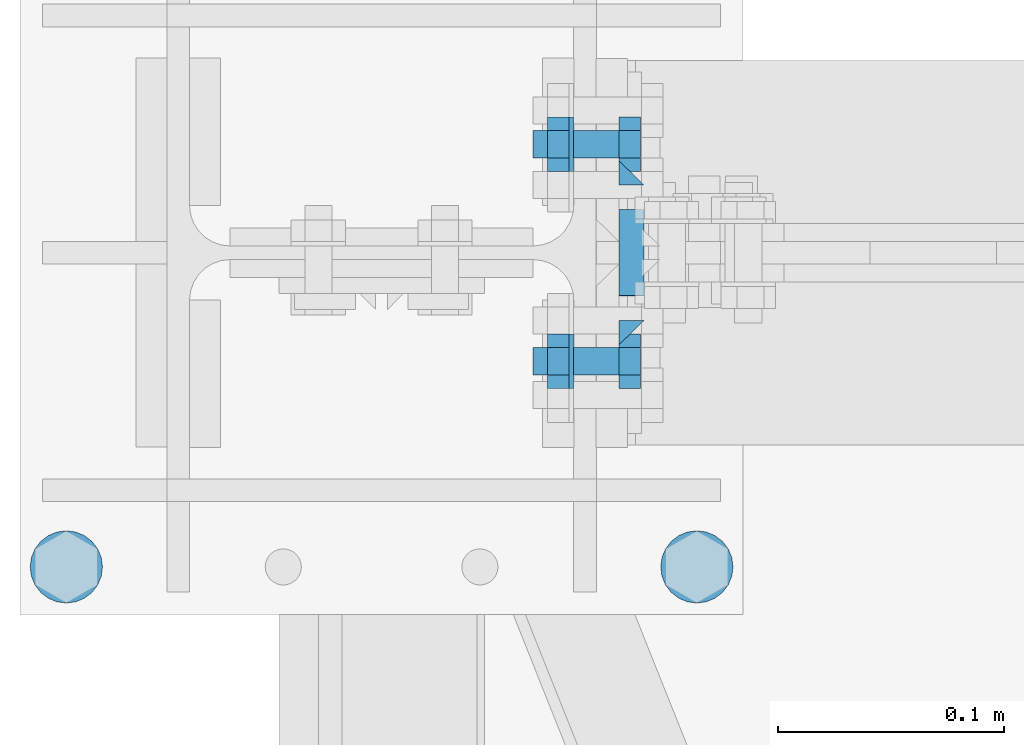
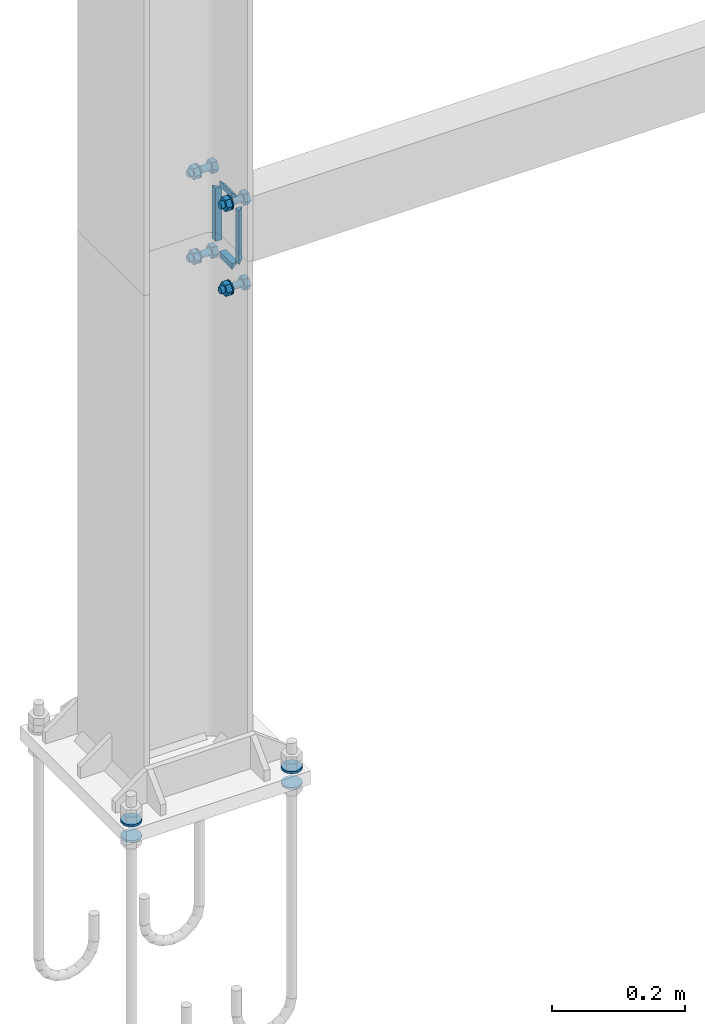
# One storey, part 187 of 251: 20 mechanical fasteners, 8 fasteners.
"""IFC4 building model written with IfcOpenShell, lengths in metres."""

from ifc_helpers import new_model, si_unit, frame, origin_with_axes, place, context, project, spatial, polyline, outline, extrude, type_object, element, save


model = new_model("IFC4")

# Units and contexts
model_context = context("Model", 3, precision=1e-05, world=origin_with_axes())
ifc_project = project(units=[si_unit("LENGTHUNIT", "METRE"), si_unit("AREAUNIT", "SQUARE_METRE"), si_unit("VOLUMEUNIT", "CUBIC_METRE"), si_unit("MASSUNIT", "GRAM", prefix="KILO"), si_unit("TIMEUNIT", "SECOND"), si_unit("PLANEANGLEUNIT", "RADIAN"), si_unit("SOLIDANGLEUNIT", "STERADIAN"), si_unit("THERMODYNAMICTEMPERATUREUNIT", "DEGREE_CELSIUS")], contexts=[model_context])

# Site, building, storey
placement_1 = place(None, origin_with_axes())
site = spatial("IfcSite", under=ifc_project, at=placement_1, Name="Italia", CompositionType="ELEMENT")
building = spatial("IfcBuilding", under=site, at=placement_1, Name="Deposito", CompositionType="ELEMENT")
storey = spatial("IfcBuildingStorey", under=building, at=placement_1, Name="Storey 0", CompositionType="ELEMENT", Elevation=0.0)

# Fasteners
fastener_type_1 = type_object("IfcFastenerType", Name="Collegamenti -005_-006 -008_-007 -013_-014 -016_-015", PredefinedType="WELD")
placement_2 = place(placement_1, origin_with_axes())
fastener_1_placement = place(placement_2, origin_with_axes())
element("IfcFastener", 1, at=fastener_1_placement, inside=storey, type_object=fastener_type_1, Name="Collegamenti -005_-006 -008_-007 -013_-014 -016_-015", context=model_context, shape_type="SweptSolid", body=[
    extrude(outline(polyline([(0.0, 0.0), (0.0111732, -0.0108382), (0.0, -0.0108382), (0.0, 0.0)])), frame((6.15495, 20.0191, 1.07079), z_axis=(0.0, -1.0, 0.0), x_axis=(1.0, 0.0, 0.0)), (0.0, 0.0, 1.0), 0.0381012),
])
fastener_type_2 = type_object("IfcFastenerType", Name="Collegamenti -005_-006 -008_-007 -013_-014 -016_-015", PredefinedType="WELD")
fastener_2_placement = place(placement_2, origin_with_axes())
element("IfcFastener", 2, at=fastener_2_placement, inside=storey, type_object=fastener_type_2, Name="Collegamenti -005_-006 -008_-007 -013_-014 -016_-015", context=model_context, shape_type="SweptSolid", body=[
    extrude(outline(polyline([(0.0, 0.0), (-0.0108376, -0.0111732), (-0.0108376, 0.0), (0.0, 0.0)])), frame((6.15495, 20.0408, 0.95095), z_axis=(0.0, 0.0, 1.0), x_axis=(0.0, 1.0, 0.0)), (0.0, 0.0, 1.0), 0.0980999),
])
fastener_type_3 = type_object("IfcFastenerType", Name="Collegamenti -005_-006 -008_-007 -013_-014 -016_-015", PredefinedType="WELD")
fastener_3_placement = place(placement_2, origin_with_axes())
element("IfcFastener", 3, at=fastener_3_placement, inside=storey, type_object=fastener_type_3, Name="Collegamenti -005_-006 -008_-007 -013_-014 -016_-015", context=model_context, shape_type="SweptSolid", body=[
    extrude(outline(polyline([(0.0, 0.0), (0.0108376, 0.0111732), (0.0108376, 0.0), (0.0, 0.0)])), frame((6.15495, 19.9592, 1.04905), z_axis=(0.0, 0.0, -1.0), x_axis=(0.0, 1.0, 0.0)), (0.0, 0.0, 1.0), 0.0980999),
])
fastener_type_4 = type_object("IfcFastenerType", Name="Collegamenti -005_-006 -008_-007 -013_-014 -016_-015", PredefinedType="WELD")
fastener_4_placement = place(placement_2, origin_with_axes())
element("IfcFastener", 4, at=fastener_4_placement, inside=storey, type_object=fastener_type_4, Name="Collegamenti -005_-006 -008_-007 -013_-014 -016_-015", context=model_context, shape_type="SweptSolid", body=[
    extrude(outline(polyline([(0.0, 0.0), (-0.0111732, 0.0108382), (0.0, 0.0108382), (0.0, 0.0)])), frame((6.15495, 19.9809, 0.929212), z_axis=(0.0, 1.0, 0.0), x_axis=(-1.0, 0.0, 0.0)), (0.0, 0.0, 1.0), 0.0381012),
])
fastener_type_5 = type_object("IfcFastenerType", Name="Collegamenti -005_-006 -008_-007 -013_-014 -016_-015", PredefinedType="WELD")
fastener_5_placement = place(placement_2, origin_with_axes())
element("IfcFastener", 5, at=fastener_5_placement, inside=storey, type_object=fastener_type_5, Name="Collegamenti -005_-006 -008_-007 -013_-014 -016_-015", context=model_context, shape_type="SweptSolid", body=[
    extrude(outline(polyline([(0.0, 0.0), (0.0111732, -0.0108382), (0.0, -0.0108382), (0.0, 0.0)])), frame((6.15495, 20.0191, 1.07079), z_axis=(0.0, -1.0, 0.0), x_axis=(1.0, 0.0, 0.0)), (0.0, 0.0, 1.0), 0.0381012),
])
fastener_type_6 = type_object("IfcFastenerType", Name="Collegamenti -005_-006 -008_-007 -013_-014 -016_-015", PredefinedType="WELD")
fastener_6_placement = place(placement_2, origin_with_axes())
element("IfcFastener", 6, at=fastener_6_placement, inside=storey, type_object=fastener_type_6, Name="Collegamenti -005_-006 -008_-007 -013_-014 -016_-015", context=model_context, shape_type="SweptSolid", body=[
    extrude(outline(polyline([(0.0, 0.0), (-0.0108376, -0.0111732), (-0.0108376, 0.0), (0.0, 0.0)])), frame((6.15495, 20.0408, 0.95095), z_axis=(0.0, 0.0, 1.0), x_axis=(0.0, 1.0, 0.0)), (0.0, 0.0, 1.0), 0.0980999),
])
fastener_type_7 = type_object("IfcFastenerType", Name="Collegamenti -005_-006 -008_-007 -013_-014 -016_-015", PredefinedType="WELD")
fastener_7_placement = place(placement_2, origin_with_axes())
element("IfcFastener", 7, at=fastener_7_placement, inside=storey, type_object=fastener_type_7, Name="Collegamenti -005_-006 -008_-007 -013_-014 -016_-015", context=model_context, shape_type="SweptSolid", body=[
    extrude(outline(polyline([(0.0, 0.0), (0.0108376, 0.0111732), (0.0108376, 0.0), (0.0, 0.0)])), frame((6.15495, 19.9592, 1.04905), z_axis=(0.0, 0.0, -1.0), x_axis=(0.0, 1.0, 0.0)), (0.0, 0.0, 1.0), 0.0980999),
])
fastener_type_8 = type_object("IfcFastenerType", Name="Collegamenti -005_-006 -008_-007 -013_-014 -016_-015", PredefinedType="WELD")
fastener_8_placement = place(placement_2, origin_with_axes())
element("IfcFastener", 8, at=fastener_8_placement, inside=storey, type_object=fastener_type_8, Name="Collegamenti -005_-006 -008_-007 -013_-014 -016_-015", context=model_context, shape_type="SweptSolid", body=[
    extrude(outline(polyline([(0.0, 0.0), (-0.0111732, 0.0108382), (0.0, 0.0108382), (0.0, 0.0)])), frame((6.15495, 19.9809, 0.929212), z_axis=(0.0, 1.0, 0.0), x_axis=(-1.0, 0.0, 0.0)), (0.0, 0.0, 1.0), 0.0381012),
])

# Mechanical fasteners
mechanical_fastener_type_1 = type_object("IfcMechanicalFastenerType", Name="Collegamenti -005_-006 -008_-007 -013_-014 -016_-015", PredefinedType="BOLT")
mechanical_fastener_1_placement = place(placement_2, origin_with_axes())
element("IfcMechanicalFastener", 9, at=mechanical_fastener_1_placement, inside=storey, type_object=mechanical_fastener_type_1, Name="Collegamenti -005_-006 -008_-007 -013_-014 -016_-015", NominalDiameter=0.0119993, context=model_context, shape_type="SweptSolid", body=[
    extrude(outline(polyline([(0.0, 0.0), (-0.012001, 0.0), (-0.0179996, 0.0103923), (-0.012001, 0.0207846), (0.0, 0.0207846), (0.00600052, 0.0103923), (0.0, 0.0)])), frame((6.155, 19.958, 0.911608), z_axis=(1.0, 0.0, 0.0), x_axis=(0.0, 1.0, 0.0)), (0.0, 0.0, 1.0), 0.00959969),
])
mechanical_fastener_type_2 = type_object("IfcMechanicalFastenerType", Name="Collegamenti -005_-006 -008_-007 -013_-014 -016_-015", PredefinedType="BOLT")
mechanical_fastener_2_placement = place(placement_2, origin_with_axes())
element("IfcMechanicalFastener", 10, at=mechanical_fastener_2_placement, inside=storey, type_object=mechanical_fastener_type_2, Name="Collegamenti -005_-006 -008_-007 -013_-014 -016_-015", NominalDiameter=0.012, context=model_context, shape_type="SweptSolid", body=[
    extrude(outline(polyline([(0.0, 0.0), (-0.000204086, -0.00155294), (-0.000804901, -0.00300002), (-0.00175858, -0.00424266), (-0.00300026, -0.00519615), (-0.00444794, -0.00579554), (-0.00600052, -0.00599998), (-0.0075531, -0.00579554), (-0.00900078, -0.00519615), (-0.0102425, -0.00424266), (-0.0111961, -0.00300002), (-0.011797, -0.00155294), (-0.012001, 0.0), (-0.011797, 0.00155294), (-0.0111961, 0.00300002), (-0.0102425, 0.00424266), (-0.00900078, 0.00519615), (-0.0075531, 0.00579554), (-0.00600052, 0.00599998), (-0.00444794, 0.00579554), (-0.00300026, 0.00519615), (-0.00175858, 0.00424266), (-0.000804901, 0.00300002), (-0.000204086, 0.00155294), (0.0, 0.0)])), frame((6.117, 19.958, 0.922), z_axis=(1.0, 0.0, 0.0), x_axis=(0.0, 1.0, 0.0)), (0.0, 0.0, 1.0), 0.0380001),
])
mechanical_fastener_type_3 = type_object("IfcMechanicalFastenerType", Name="Collegamenti -005_-006 -008_-007 -013_-014 -016_-015", PredefinedType="BOLT")
mechanical_fastener_3_placement = place(placement_2, origin_with_axes())
element("IfcMechanicalFastener", 11, at=mechanical_fastener_3_placement, inside=storey, type_object=mechanical_fastener_type_3, Name="Collegamenti -005_-006 -008_-007 -013_-014 -016_-015", NominalDiameter=0.0119993, context=model_context, shape_type="SweptSolid", body=[
    extrude(outline(polyline([(0.0, 0.0), (-0.012001, 0.0), (-0.0179996, 0.0103923), (-0.012001, 0.0207846), (0.0, 0.0207846), (0.00600052, 0.0103923), (0.0, 0.0)])), frame((6.1234, 19.958, 0.911608), z_axis=(1.0, 0.0, 0.0), x_axis=(0.0, 1.0, 0.0)), (0.0, 0.0, 1.0), 0.00959969),
])
mechanical_fastener_type_4 = type_object("IfcMechanicalFastenerType", Name="Collegamenti -005_-006 -008_-007 -013_-014 -016_-015", PredefinedType="BOLT")
mechanical_fastener_4_placement = place(placement_2, origin_with_axes())
element("IfcMechanicalFastener", 12, at=mechanical_fastener_4_placement, inside=storey, type_object=mechanical_fastener_type_4, Name="Collegamenti -005_-006 -008_-007 -013_-014 -016_-015", NominalDiameter=0.024, context=model_context, shape_type="SweptSolid", body=[
    extrude(outline(polyline([(0.0, 0.0), (-0.000408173, -0.00310582), (-0.00160599, -0.00599998), (-0.00351334, -0.00848526), (-0.00599861, -0.0103923), (-0.00889397, -0.0115911), (-0.0119991, -0.012), (-0.0151043, -0.0115911), (-0.0179996, -0.0103923), (-0.0204849, -0.00848526), (-0.0223923, -0.00599998), (-0.0235901, -0.00310582), (-0.0239983, 0.0), (-0.0235901, 0.00310582), (-0.0223923, 0.00599998), (-0.0204849, 0.00848526), (-0.0179996, 0.0103923), (-0.0151043, 0.0115911), (-0.0119991, 0.012), (-0.00889397, 0.0115911), (-0.00599861, 0.0103923), (-0.00351334, 0.00848526), (-0.00160599, 0.00599998), (-0.000408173, 0.00310582), (0.0, 0.0)])), frame((6.133, 19.964, 0.922), z_axis=(1.0, 0.0, 0.0), x_axis=(0.0, 1.0, 0.0)), (0.0, 0.0, 1.0), 0.00199986),
])
mechanical_fastener_type_5 = type_object("IfcMechanicalFastenerType", Name="Collegamenti -005_-006 -008_-007 -013_-014 -016_-015", PredefinedType="BOLT")
mechanical_fastener_5_placement = place(placement_2, origin_with_axes())
element("IfcMechanicalFastener", 13, at=mechanical_fastener_5_placement, inside=storey, type_object=mechanical_fastener_type_5, Name="Collegamenti -005_-006 -008_-007 -013_-014 -016_-015", NominalDiameter=0.0119993, context=model_context, shape_type="SweptSolid", body=[
    extrude(outline(polyline([(0.0, 0.0), (-0.012001, 0.0), (-0.0180016, 0.0103923), (-0.012001, 0.0207846), (0.0, 0.0207846), (0.00599861, 0.0103923), (0.0, 0.0)])), frame((6.155, 20.054, 0.911608), z_axis=(1.0, 0.0, 0.0), x_axis=(0.0, 1.0, 0.0)), (0.0, 0.0, 1.0), 0.00959969),
])
mechanical_fastener_type_6 = type_object("IfcMechanicalFastenerType", Name="Collegamenti -005_-006 -008_-007 -013_-014 -016_-015", PredefinedType="BOLT")
mechanical_fastener_6_placement = place(placement_2, origin_with_axes())
element("IfcMechanicalFastener", 14, at=mechanical_fastener_6_placement, inside=storey, type_object=mechanical_fastener_type_6, Name="Collegamenti -005_-006 -008_-007 -013_-014 -016_-015", NominalDiameter=0.012, context=model_context, shape_type="SweptSolid", body=[
    extrude(outline(polyline([(0.0, 0.0), (-0.000204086, -0.00155294), (-0.000804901, -0.00300002), (-0.00175858, -0.00424266), (-0.00300026, -0.00519615), (-0.00444794, -0.00579554), (-0.00600052, -0.00599998), (-0.0075531, -0.00579554), (-0.00900078, -0.00519615), (-0.0102425, -0.00424266), (-0.0111961, -0.00300002), (-0.011797, -0.00155294), (-0.012001, 0.0), (-0.011797, 0.00155294), (-0.0111961, 0.00300002), (-0.0102425, 0.00424266), (-0.00900078, 0.00519615), (-0.0075531, 0.00579554), (-0.00600052, 0.00599998), (-0.00444794, 0.00579554), (-0.00300026, 0.00519615), (-0.00175858, 0.00424266), (-0.000804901, 0.00300002), (-0.000204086, 0.00155294), (0.0, 0.0)])), frame((6.117, 20.054, 0.922), z_axis=(1.0, 0.0, 0.0), x_axis=(0.0, 1.0, 0.0)), (0.0, 0.0, 1.0), 0.0380001),
])
mechanical_fastener_type_7 = type_object("IfcMechanicalFastenerType", Name="Collegamenti -005_-006 -008_-007 -013_-014 -016_-015", PredefinedType="BOLT")
mechanical_fastener_7_placement = place(placement_2, origin_with_axes())
element("IfcMechanicalFastener", 15, at=mechanical_fastener_7_placement, inside=storey, type_object=mechanical_fastener_type_7, Name="Collegamenti -005_-006 -008_-007 -013_-014 -016_-015", NominalDiameter=0.0119993, context=model_context, shape_type="SweptSolid", body=[
    extrude(outline(polyline([(0.0, 0.0), (-0.012001, 0.0), (-0.0180016, 0.0103923), (-0.012001, 0.0207846), (0.0, 0.0207846), (0.00599861, 0.0103923), (0.0, 0.0)])), frame((6.1234, 20.054, 0.911608), z_axis=(1.0, 0.0, 0.0), x_axis=(0.0, 1.0, 0.0)), (0.0, 0.0, 1.0), 0.00959969),
])
mechanical_fastener_type_8 = type_object("IfcMechanicalFastenerType", Name="Collegamenti -005_-006 -008_-007 -013_-014 -016_-015", PredefinedType="BOLT")
mechanical_fastener_8_placement = place(placement_2, origin_with_axes())
element("IfcMechanicalFastener", 16, at=mechanical_fastener_8_placement, inside=storey, type_object=mechanical_fastener_type_8, Name="Collegamenti -005_-006 -008_-007 -013_-014 -016_-015", NominalDiameter=0.024, context=model_context, shape_type="SweptSolid", body=[
    extrude(outline(polyline([(0.0, 0.0), (-0.000408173, -0.00310582), (-0.00160599, -0.00599998), (-0.00351334, -0.00848526), (-0.00599861, -0.0103923), (-0.00889397, -0.0115911), (-0.0119991, -0.012), (-0.0151043, -0.0115911), (-0.0179996, -0.0103923), (-0.0204849, -0.00848526), (-0.0223923, -0.00599998), (-0.0235901, -0.00310582), (-0.0239983, 0.0), (-0.0235901, 0.00310582), (-0.0223923, 0.00599998), (-0.0204849, 0.00848526), (-0.0179996, 0.0103923), (-0.0151043, 0.0115911), (-0.0119991, 0.012), (-0.00889397, 0.0115911), (-0.00599861, 0.0103923), (-0.00351334, 0.00848526), (-0.00160599, 0.00599998), (-0.000408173, 0.00310582), (0.0, 0.0)])), frame((6.133, 20.06, 0.922), z_axis=(1.0, 0.0, 0.0), x_axis=(0.0, 1.0, 0.0)), (0.0, 0.0, 1.0), 0.00199986),
])
mechanical_fastener_type_9 = type_object("IfcMechanicalFastenerType", Name="Collegamenti -005_-006 -008_-007 -013_-014 -016_-015", PredefinedType="BOLT")
mechanical_fastener_9_placement = place(placement_2, origin_with_axes())
element("IfcMechanicalFastener", 17, at=mechanical_fastener_9_placement, inside=storey, type_object=mechanical_fastener_type_9, Name="Collegamenti -005_-006 -008_-007 -013_-014 -016_-015", NominalDiameter=0.0119993, context=model_context, shape_type="SweptSolid", body=[
    extrude(outline(polyline([(0.0, 0.0), (-0.012001, 0.0), (-0.0179996, 0.0103923), (-0.012001, 0.0207846), (0.0, 0.0207846), (0.00600052, 0.0103923), (0.0, 0.0)])), frame((6.155, 19.958, 1.06761), z_axis=(1.0, 0.0, 0.0), x_axis=(0.0, 1.0, 0.0)), (0.0, 0.0, 1.0), 0.00959969),
])
mechanical_fastener_type_10 = type_object("IfcMechanicalFastenerType", Name="Collegamenti -005_-006 -008_-007 -013_-014 -016_-015", PredefinedType="BOLT")
mechanical_fastener_10_placement = place(placement_2, origin_with_axes())
element("IfcMechanicalFastener", 18, at=mechanical_fastener_10_placement, inside=storey, type_object=mechanical_fastener_type_10, Name="Collegamenti -005_-006 -008_-007 -013_-014 -016_-015", NominalDiameter=0.012, context=model_context, shape_type="SweptSolid", body=[
    extrude(outline(polyline([(0.0, 0.0), (-0.000204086, -0.00155294), (-0.000804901, -0.00300002), (-0.00175858, -0.00424266), (-0.00300026, -0.00519609), (-0.00444794, -0.0057956), (-0.00600052, -0.00600004), (-0.0075531, -0.0057956), (-0.00900078, -0.00519609), (-0.0102425, -0.00424266), (-0.0111961, -0.00300002), (-0.011797, -0.00155294), (-0.012001, 0.0), (-0.011797, 0.00155294), (-0.0111961, 0.00300002), (-0.0102425, 0.00424266), (-0.00900078, 0.00519609), (-0.0075531, 0.0057956), (-0.00600052, 0.00600004), (-0.00444794, 0.0057956), (-0.00300026, 0.00519609), (-0.00175858, 0.00424266), (-0.000804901, 0.00300002), (-0.000204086, 0.00155294), (0.0, 0.0)])), frame((6.117, 19.958, 1.078), z_axis=(1.0, 0.0, 0.0), x_axis=(0.0, 1.0, 0.0)), (0.0, 0.0, 1.0), 0.0380001),
])
mechanical_fastener_type_11 = type_object("IfcMechanicalFastenerType", Name="Collegamenti -005_-006 -008_-007 -013_-014 -016_-015", PredefinedType="BOLT")
mechanical_fastener_11_placement = place(placement_2, origin_with_axes())
element("IfcMechanicalFastener", 19, at=mechanical_fastener_11_placement, inside=storey, type_object=mechanical_fastener_type_11, Name="Collegamenti -005_-006 -008_-007 -013_-014 -016_-015", NominalDiameter=0.0119993, context=model_context, shape_type="SweptSolid", body=[
    extrude(outline(polyline([(0.0, 0.0), (-0.012001, 0.0), (-0.0179996, 0.0103923), (-0.012001, 0.0207846), (0.0, 0.0207846), (0.00600052, 0.0103923), (0.0, 0.0)])), frame((6.1234, 19.958, 1.06761), z_axis=(1.0, 0.0, 0.0), x_axis=(0.0, 1.0, 0.0)), (0.0, 0.0, 1.0), 0.00959969),
])
mechanical_fastener_type_12 = type_object("IfcMechanicalFastenerType", Name="Collegamenti -005_-006 -008_-007 -013_-014 -016_-015", PredefinedType="BOLT")
mechanical_fastener_12_placement = place(placement_2, origin_with_axes())
element("IfcMechanicalFastener", 20, at=mechanical_fastener_12_placement, inside=storey, type_object=mechanical_fastener_type_12, Name="Collegamenti -005_-006 -008_-007 -013_-014 -016_-015", NominalDiameter=0.024, context=model_context, shape_type="SweptSolid", body=[
    extrude(outline(polyline([(0.0, 0.0), (-0.000408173, -0.00310588), (-0.00160599, -0.00600004), (-0.00351334, -0.00848532), (-0.00599861, -0.0103923), (-0.00889397, -0.0115911), (-0.0119991, -0.012), (-0.0151043, -0.0115911), (-0.0179996, -0.0103923), (-0.0204849, -0.00848532), (-0.0223923, -0.00600004), (-0.0235901, -0.00310588), (-0.0239983, 0.0), (-0.0235901, 0.00310588), (-0.0223923, 0.00600004), (-0.0204849, 0.00848532), (-0.0179996, 0.0103923), (-0.0151043, 0.0115911), (-0.0119991, 0.012), (-0.00889397, 0.0115911), (-0.00599861, 0.0103923), (-0.00351334, 0.00848532), (-0.00160599, 0.00600004), (-0.000408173, 0.00310588), (0.0, 0.0)])), frame((6.133, 19.964, 1.078), z_axis=(1.0, 0.0, 0.0), x_axis=(0.0, 1.0, 0.0)), (0.0, 0.0, 1.0), 0.00199986),
])
mechanical_fastener_type_13 = type_object("IfcMechanicalFastenerType", Name="Collegamenti -005_-006 -008_-007 -013_-014 -016_-015", PredefinedType="BOLT")
mechanical_fastener_13_placement = place(placement_2, origin_with_axes())
element("IfcMechanicalFastener", 21, at=mechanical_fastener_13_placement, inside=storey, type_object=mechanical_fastener_type_13, Name="Collegamenti -005_-006 -008_-007 -013_-014 -016_-015", NominalDiameter=0.0119993, context=model_context, shape_type="SweptSolid", body=[
    extrude(outline(polyline([(0.0, 0.0), (-0.012001, 0.0), (-0.0180016, 0.0103923), (-0.012001, 0.0207846), (0.0, 0.0207846), (0.00599861, 0.0103923), (0.0, 0.0)])), frame((6.155, 20.054, 1.06761), z_axis=(1.0, 0.0, 0.0), x_axis=(0.0, 1.0, 0.0)), (0.0, 0.0, 1.0), 0.00959969),
])
mechanical_fastener_type_14 = type_object("IfcMechanicalFastenerType", Name="Collegamenti -005_-006 -008_-007 -013_-014 -016_-015", PredefinedType="BOLT")
mechanical_fastener_14_placement = place(placement_2, origin_with_axes())
element("IfcMechanicalFastener", 22, at=mechanical_fastener_14_placement, inside=storey, type_object=mechanical_fastener_type_14, Name="Collegamenti -005_-006 -008_-007 -013_-014 -016_-015", NominalDiameter=0.012, context=model_context, shape_type="SweptSolid", body=[
    extrude(outline(polyline([(0.0, 0.0), (-0.000204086, -0.00155294), (-0.000804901, -0.00300002), (-0.00175858, -0.00424266), (-0.00300026, -0.00519609), (-0.00444794, -0.0057956), (-0.00600052, -0.00600004), (-0.0075531, -0.0057956), (-0.00900078, -0.00519609), (-0.0102425, -0.00424266), (-0.0111961, -0.00300002), (-0.011797, -0.00155294), (-0.012001, 0.0), (-0.011797, 0.00155294), (-0.0111961, 0.00300002), (-0.0102425, 0.00424266), (-0.00900078, 0.00519609), (-0.0075531, 0.0057956), (-0.00600052, 0.00600004), (-0.00444794, 0.0057956), (-0.00300026, 0.00519609), (-0.00175858, 0.00424266), (-0.000804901, 0.00300002), (-0.000204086, 0.00155294), (0.0, 0.0)])), frame((6.117, 20.054, 1.078), z_axis=(1.0, 0.0, 0.0), x_axis=(0.0, 1.0, 0.0)), (0.0, 0.0, 1.0), 0.0380001),
])
mechanical_fastener_type_15 = type_object("IfcMechanicalFastenerType", Name="Collegamenti -005_-006 -008_-007 -013_-014 -016_-015", PredefinedType="BOLT")
mechanical_fastener_15_placement = place(placement_2, origin_with_axes())
element("IfcMechanicalFastener", 23, at=mechanical_fastener_15_placement, inside=storey, type_object=mechanical_fastener_type_15, Name="Collegamenti -005_-006 -008_-007 -013_-014 -016_-015", NominalDiameter=0.0119993, context=model_context, shape_type="SweptSolid", body=[
    extrude(outline(polyline([(0.0, 0.0), (-0.012001, 0.0), (-0.0180016, 0.0103923), (-0.012001, 0.0207846), (0.0, 0.0207846), (0.00599861, 0.0103923), (0.0, 0.0)])), frame((6.1234, 20.054, 1.06761), z_axis=(1.0, 0.0, 0.0), x_axis=(0.0, 1.0, 0.0)), (0.0, 0.0, 1.0), 0.00959969),
])
mechanical_fastener_type_16 = type_object("IfcMechanicalFastenerType", Name="Collegamenti -005_-006 -008_-007 -013_-014 -016_-015", PredefinedType="BOLT")
mechanical_fastener_16_placement = place(placement_2, origin_with_axes())
element("IfcMechanicalFastener", 24, at=mechanical_fastener_16_placement, inside=storey, type_object=mechanical_fastener_type_16, Name="Collegamenti -005_-006 -008_-007 -013_-014 -016_-015", NominalDiameter=0.024, context=model_context, shape_type="SweptSolid", body=[
    extrude(outline(polyline([(0.0, 0.0), (-0.000408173, -0.00310588), (-0.00160599, -0.00600004), (-0.00351334, -0.00848532), (-0.00599861, -0.0103923), (-0.00889397, -0.0115911), (-0.0119991, -0.012), (-0.0151043, -0.0115911), (-0.0179996, -0.0103923), (-0.0204849, -0.00848532), (-0.0223923, -0.00600004), (-0.0235901, -0.00310588), (-0.0239983, 0.0), (-0.0235901, 0.00310588), (-0.0223923, 0.00600004), (-0.0204849, 0.00848532), (-0.0179996, 0.0103923), (-0.0151043, 0.0115911), (-0.0119991, 0.012), (-0.00889397, 0.0115911), (-0.00599861, 0.0103923), (-0.00351334, 0.00848532), (-0.00160599, 0.00600004), (-0.000408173, 0.00310588), (0.0, 0.0)])), frame((6.133, 20.06, 1.078), z_axis=(1.0, 0.0, 0.0), x_axis=(0.0, 1.0, 0.0)), (0.0, 0.0, 1.0), 0.00199986),
])
mechanical_fastener_type_17 = type_object("IfcMechanicalFastenerType", Name="Collegamenti 0014_-001 0016_-054 0018_-056 0032_-002 0033_-058 0047_-003 0048_-060 0062_-004 0063_-005 0079_-008", PredefinedType="BOLT")
mechanical_fastener_17_placement = place(placement_2, origin_with_axes())
element("IfcMechanicalFastener", 25, at=mechanical_fastener_17_placement, inside=storey, type_object=mechanical_fastener_type_17, Name="Collegamenti 0014_-001 0016_-054 0018_-056 0032_-002 0033_-058 0047_-003 0048_-060 0062_-004 0063_-005 0079_-008", NominalDiameter=0.032, context=model_context, shape_type="SweptSolid", body=[
    extrude(outline(polyline([(0.0, 0.0), (-0.000545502, -0.00414133), (-0.00214386, -0.0079999), (-0.00468636, -0.0113139), (-0.00800133, -0.0138564), (-0.0118599, -0.0154548), (-0.0160007, -0.0159998), (-0.0201416, -0.0154548), (-0.0240002, -0.0138564), (-0.0273151, -0.0113139), (-0.0298576, -0.0079999), (-0.031456, -0.00414133), (-0.0320015, 0.0), (-0.031456, 0.00414133), (-0.0298576, 0.0079999), (-0.0273151, 0.0113139), (-0.0240002, 0.0138564), (-0.0201416, 0.0154548), (-0.0160007, 0.0159998), (-0.0118599, 0.0154548), (-0.00800133, 0.0138564), (-0.00468636, 0.0113139), (-0.00214386, 0.0079999), (-0.000545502, 0.00414133), (0.0, 0.0)])), frame((6.1895, 19.877, 0.075), z_axis=(0.0, 0.0, 1.0), x_axis=(0.0, 1.0, 0.0)), (0.0, 0.0, 1.0), 0.00399999),
])
mechanical_fastener_type_18 = type_object("IfcMechanicalFastenerType", Name="Collegamenti 0014_-001 0016_-054 0018_-056 0032_-002 0033_-058 0047_-003 0048_-060 0062_-004 0063_-005 0079_-008", PredefinedType="BOLT")
mechanical_fastener_18_placement = place(placement_2, origin_with_axes())
element("IfcMechanicalFastener", 26, at=mechanical_fastener_18_placement, inside=storey, type_object=mechanical_fastener_type_18, Name="Collegamenti 0014_-001 0016_-054 0018_-056 0032_-002 0033_-058 0047_-003 0048_-060 0062_-004 0063_-005 0079_-008", NominalDiameter=0.032, context=model_context, shape_type="SweptSolid", body=[
    extrude(outline(polyline([(0.0, 0.0), (-0.000545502, -0.00414133), (-0.00214386, -0.0079999), (-0.00468636, -0.0113139), (-0.00800133, -0.0138564), (-0.0118599, -0.0154548), (-0.0160007, -0.0159998), (-0.0201416, -0.0154548), (-0.0240002, -0.0138564), (-0.0273151, -0.0113139), (-0.0298576, -0.0079999), (-0.031456, -0.00414133), (-0.0320015, 0.0), (-0.031456, 0.00414133), (-0.0298576, 0.0079999), (-0.0273151, 0.0113139), (-0.0240002, 0.0138564), (-0.0201416, 0.0154548), (-0.0160007, 0.0159998), (-0.0118599, 0.0154548), (-0.00800133, 0.0138564), (-0.00468636, 0.0113139), (-0.00214386, 0.0079999), (-0.000545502, 0.00414133), (0.0, 0.0)])), frame((6.1895, 19.877, 0.046), z_axis=(0.0, 0.0, 1.0), x_axis=(0.0, 1.0, 0.0)), (0.0, 0.0, 1.0), 0.004),
])
mechanical_fastener_type_19 = type_object("IfcMechanicalFastenerType", Name="Collegamenti 0014_-001 0016_-054 0018_-056 0032_-002 0033_-058 0047_-003 0048_-060 0062_-004 0063_-005 0079_-008", PredefinedType="BOLT")
mechanical_fastener_19_placement = place(placement_2, origin_with_axes())
element("IfcMechanicalFastener", 27, at=mechanical_fastener_19_placement, inside=storey, type_object=mechanical_fastener_type_19, Name="Collegamenti 0014_-001 0016_-054 0018_-056 0032_-002 0033_-058 0047_-003 0048_-060 0062_-004 0063_-005 0079_-008", NominalDiameter=0.032, context=model_context, shape_type="SweptSolid", body=[
    extrude(outline(polyline([(0.0, 0.0), (-0.000545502, -0.00414133), (-0.00214386, -0.0079999), (-0.00468636, -0.0113139), (-0.00800133, -0.0138564), (-0.0118599, -0.0154548), (-0.0160007, -0.0159998), (-0.0201416, -0.0154548), (-0.0240002, -0.0138564), (-0.0273151, -0.0113139), (-0.0298576, -0.0079999), (-0.031456, -0.00414133), (-0.0320015, 0.0), (-0.031456, 0.00414133), (-0.0298576, 0.0079999), (-0.0273151, 0.0113139), (-0.0240002, 0.0138564), (-0.0201416, 0.0154548), (-0.0160007, 0.0159998), (-0.0118599, 0.0154548), (-0.00800133, 0.0138564), (-0.00468636, 0.0113139), (-0.00214386, 0.0079999), (-0.000545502, 0.00414133), (0.0, 0.0)])), frame((5.9105, 19.877, 0.075), z_axis=(0.0, 0.0, 1.0), x_axis=(0.0, 1.0, 0.0)), (0.0, 0.0, 1.0), 0.00399999),
])
mechanical_fastener_type_20 = type_object("IfcMechanicalFastenerType", Name="Collegamenti 0014_-001 0016_-054 0018_-056 0032_-002 0033_-058 0047_-003 0048_-060 0062_-004 0063_-005 0079_-008", PredefinedType="BOLT")
mechanical_fastener_20_placement = place(placement_2, origin_with_axes())
element("IfcMechanicalFastener", 28, at=mechanical_fastener_20_placement, inside=storey, type_object=mechanical_fastener_type_20, Name="Collegamenti 0014_-001 0016_-054 0018_-056 0032_-002 0033_-058 0047_-003 0048_-060 0062_-004 0063_-005 0079_-008", NominalDiameter=0.032, context=model_context, shape_type="SweptSolid", body=[
    extrude(outline(polyline([(0.0, 0.0), (-0.000545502, -0.00414133), (-0.00214386, -0.0079999), (-0.00468636, -0.0113139), (-0.00800133, -0.0138564), (-0.0118599, -0.0154548), (-0.0160007, -0.0159998), (-0.0201416, -0.0154548), (-0.0240002, -0.0138564), (-0.0273151, -0.0113139), (-0.0298576, -0.0079999), (-0.031456, -0.00414133), (-0.0320015, 0.0), (-0.031456, 0.00414133), (-0.0298576, 0.0079999), (-0.0273151, 0.0113139), (-0.0240002, 0.0138564), (-0.0201416, 0.0154548), (-0.0160007, 0.0159998), (-0.0118599, 0.0154548), (-0.00800133, 0.0138564), (-0.00468636, 0.0113139), (-0.00214386, 0.0079999), (-0.000545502, 0.00414133), (0.0, 0.0)])), frame((5.9105, 19.877, 0.046), z_axis=(0.0, 0.0, 1.0), x_axis=(0.0, 1.0, 0.0)), (0.0, 0.0, 1.0), 0.004),
])

save(model, "model.ifc")
